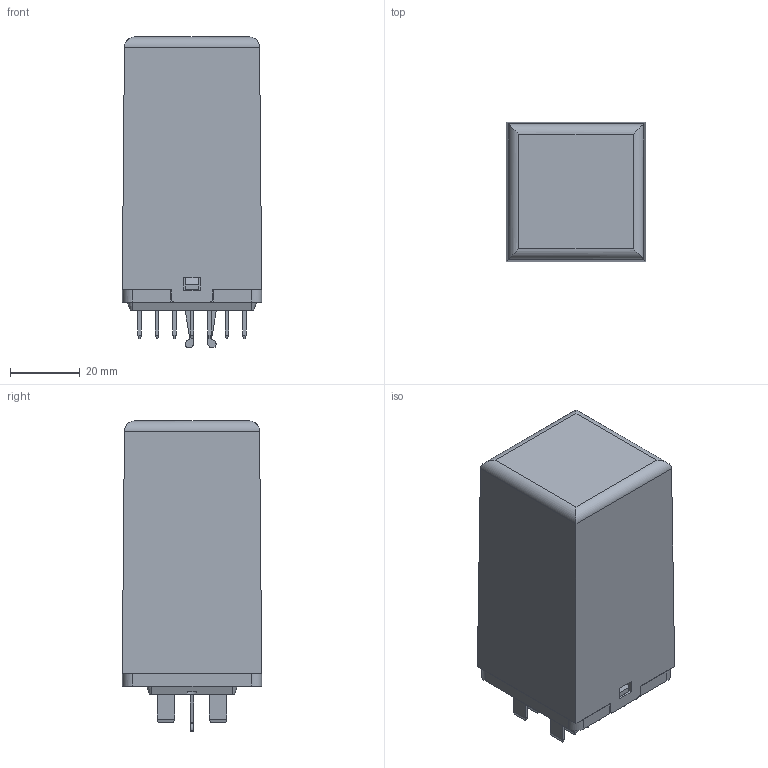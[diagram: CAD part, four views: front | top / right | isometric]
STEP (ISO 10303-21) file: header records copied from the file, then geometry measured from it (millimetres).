
FILE_DESCRIPTION((''),'2;1');
FILE_NAME('I:\TI\Bibliotheek\Inventor\Relais\KCD\KCD-U200.stp','2011-03-09T09:28:40',('oey'),(''),'Autodesk Inventor 2011','Autodesk Inventor 2011','');
FILE_SCHEMA(('AUTOMOTIVE_DESIGN { 1 0 10303 214 1 1 1 1 }'));
Length unit declared in the file: millimetre
Products named in the file (1): KCD-U200
Bounding box: 40 x 40.06 x 88.9 mm (x, y, z)
Volume: 47118.8 mm3; surface area: 60933.9 mm2
Topology: 3 solids, 11 shells, 2862 faces, 8205 edges, 5266 vertices
Faces by surface type: plane 1726, cylinder 851, bspline 132, sphere 68, torus 43, cone 42
Full cylindrical faces by diameter (mm): 0.5 x15, 1 x4, 1.4 x2, 1.5 x2, 1.567 x1, 1.6 x14, 1.7 x11, 1.729 x2, 1.754 x3, 2 x16, 2.1 x4, 2.2 x4, 2.4 x1, 2.5 x2, 2.7 x4, 3 x2, 4.1 x1, 5 x2, 5.1 x2, 6 x2, 7 x4, 13 x2, 16 x2
Entity records: 100900 total; most frequent: CARTESIAN_POINT 23294, ORIENTED_EDGE 15954, DIRECTION 15222, EDGE_CURVE 7977, VECTOR 5498, LINE 5498, VERTEX_POINT 5187, AXIS2_PLACEMENT_3D 4862
